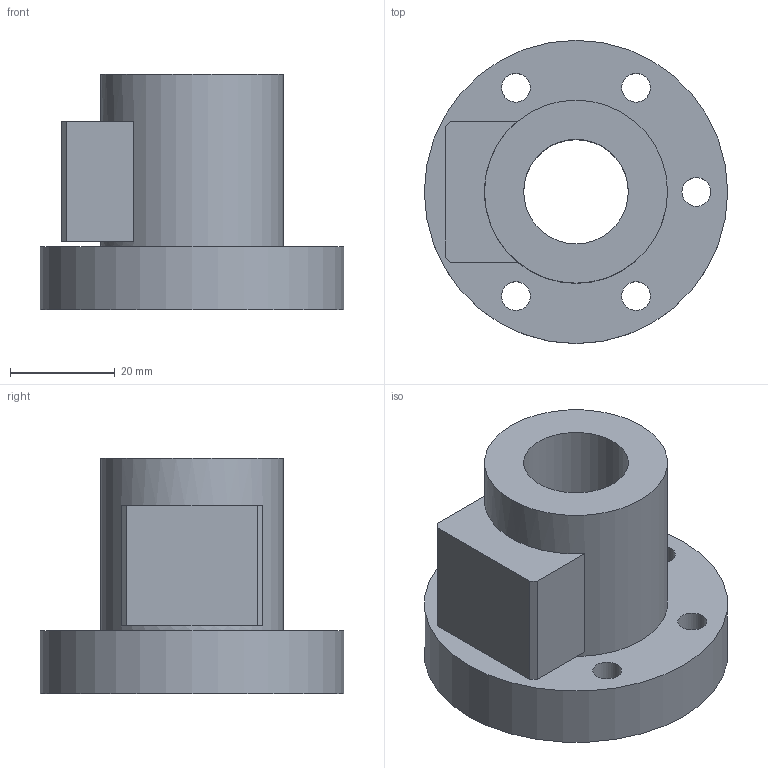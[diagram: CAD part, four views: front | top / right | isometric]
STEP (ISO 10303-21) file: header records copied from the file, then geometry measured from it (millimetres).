
FILE_DESCRIPTION(/* description */ (''),/* implementation_level */ '2;1');
FILE_NAME(/* name */ '20-5B1',/* time_stamp */ '2006-06-16T09:35:28+08:00',/* author */ (''),/* organization */ (''),/* preprocessor_version */ 'ST-DEVELOPER v9',/* originating_system */ 'UGS - NX 4.0',/* authorisation */ '');
FILE_SCHEMA (('CONFIG_CONTROL_DESIGN'));
Length unit declared in the file: millimetre
Products named in the file (1): 20-5B1
Bounding box: 58 x 58 x 45 mm (x, y, z)
Volume: 52434.4 mm3; surface area: 15473.3 mm2
Topology: 1 solids, 1 shells, 28 faces, 61 edges, 42 vertices
Faces by surface type: plane 15, cylinder 13
Full cylindrical faces by diameter (mm): 5.5 x5, 9.5 x5, 20 x1, 35 x1, 58 x1
Entity records: 794 total; most frequent: DIRECTION 130, CARTESIAN_POINT 111, ORIENTED_EDGE 88, EDGE_LOOP 60, AXIS2_PLACEMENT_3D 57, FACE_BOUND 45, EDGE_CURVE 44, VERTEX_POINT 38
